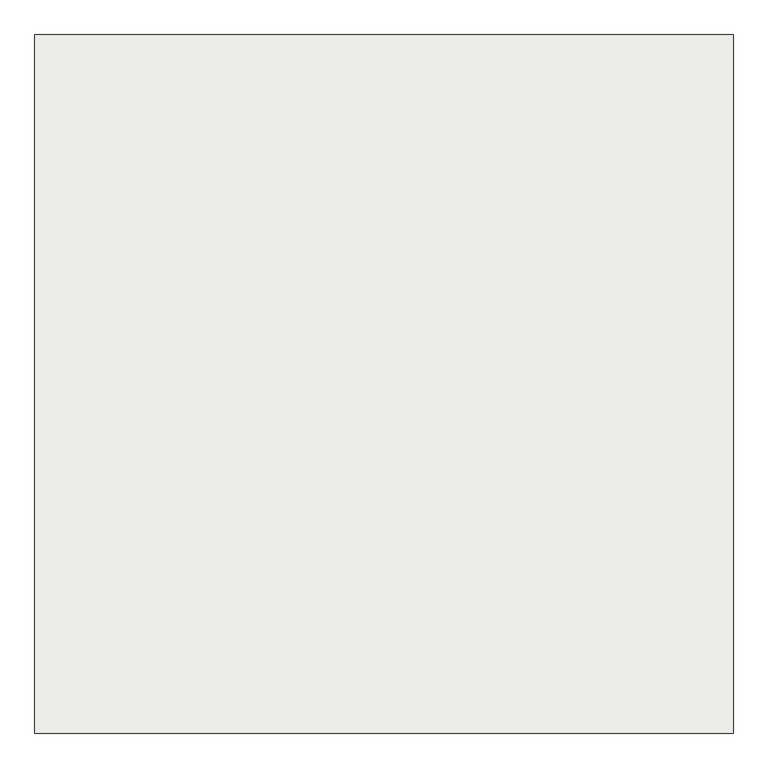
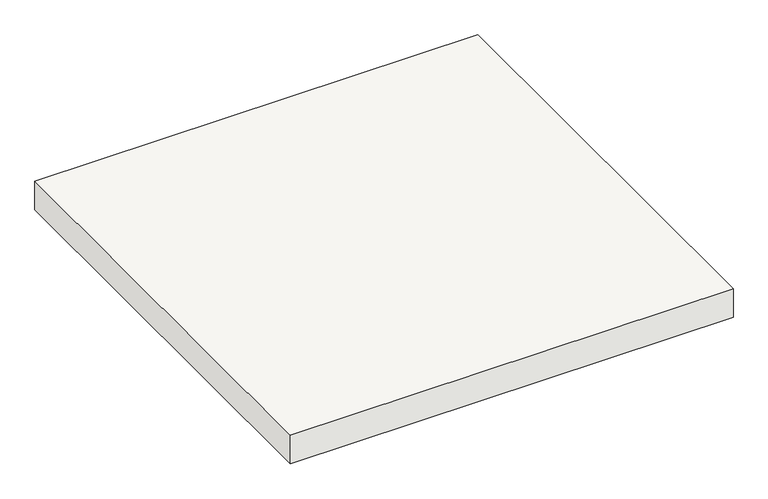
"""IFC4 building model written with IfcOpenShell, lengths in millimetres: roof geometry, Basic Roof:47_RO_isolatie_EPS_bitumen_102_100-2:69892 : Basic Roof:47_RO_isolatie_EPS_bitumen_102_100-2:69892."""

from ifc_helpers import new_model, si_unit, origin, origin_with_axes, place, context, project, spatial, polyline, outline, extrude, source, transform, mapped, element, save


def roof_4d8e4188(model_context):
    return source(origin(), model_context, "Body", "SweptSolid", [
        extrude(outline(polyline([(38693.347385, -5415.0), (37193.347385, -5415.0), (37193.347385, -3915.0), (38693.347385, -3915.0), (38693.347385, -5415.0)])), origin_with_axes(), (0.0, 0.0, 1.0), 102.0),
    ])


if __name__ == "__main__":
    model = new_model("IFC4")
    model_context = context("Model", 3, world=origin())
    ifc_project = project(units=[si_unit("LENGTHUNIT", "METRE", prefix="MILLI")], contexts=[model_context])
    site = spatial("IfcSite", under=ifc_project)
    building = spatial("IfcBuilding", under=site)
    placement = place(None, origin())
    roof_shape = roof_4d8e4188(model_context)
    element("IfcRoof", 1, ObjectType="Basic Roof:47_RO_isolatie_EPS_bitumen_102_100-2:69892 : Basic Roof:47_RO_isolatie_EPS_bitumen_102_100-2:69892", at=placement, inside=building, context=model_context, shape_type="MappedRepresentation", body=[
        mapped(roof_shape, transform((0.0, 0.0, 0.0), x_axis=(1.0, 0.0, 0.0), y_axis=(0.0, 1.0, 0.0), z_axis=(0.0, 0.0, 1.0))),
    ])
    save(model, "model.ifc")
